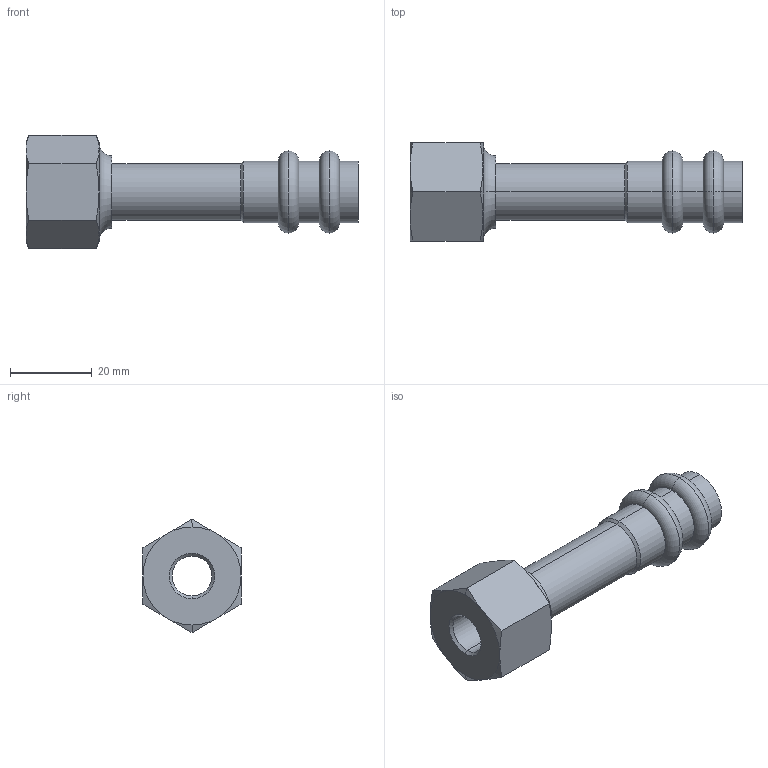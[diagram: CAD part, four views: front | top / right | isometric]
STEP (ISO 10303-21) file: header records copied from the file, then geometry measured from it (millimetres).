
FILE_DESCRIPTION(('starvars output'),'1');
FILE_NAME('cv20240422105140000011547.stp','10:51:43 2024/04/22',('Thomas Industrial Network Germany GmbH'),(' '),'Spatial InterOp 3D',' ',' ');
FILE_SCHEMA(('AUTOMOTIVE_DESIGN { 1 0 10303 214 3 1 1 }'));
Length unit declared in the file: millimetre
Products named in the file (1): 1
Bounding box: 81.17 x 24 x 27.71 mm (x, y, z)
Volume: 11396.1 mm3; surface area: 8940.3 mm2
Topology: 1 solids, 1 shells, 74 faces, 152 edges, 86 vertices
Faces by surface type: cone 24, torus 18, cylinder 18, plane 14
Entity records: 2584 total; most frequent: CARTESIAN_POINT 409, DIRECTION 370, ORIENTED_EDGE 304, AXIS2_PLACEMENT_3D 167, EDGE_CURVE 152, CIRCLE 92, VERTEX_POINT 86, EDGE_LOOP 82
